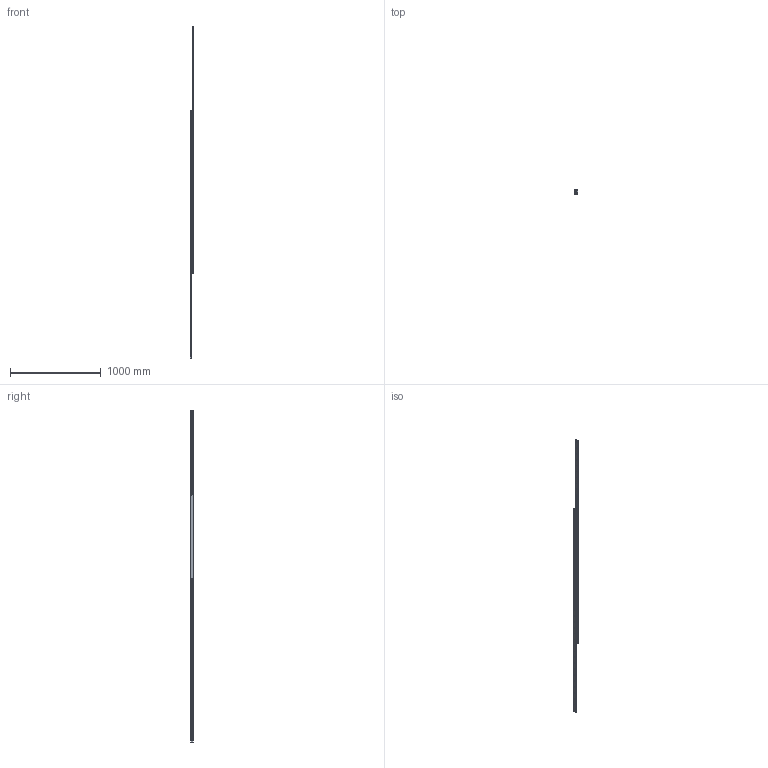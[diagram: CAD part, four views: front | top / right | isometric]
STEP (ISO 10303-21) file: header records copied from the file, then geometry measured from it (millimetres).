
FILE_DESCRIPTION( ( 'STEP AP214' ), '1' );
FILE_NAME( 'p:/temp/worker_84/temp/exporttempdir_3784_595_bLnke/format_1/DEF43-18101856.stp', '2020-03-20T20:04:55', ( 'License CC BY-ND 4.0' ), ( 'CADENAS' ), ' ', 'PARTsolutions', ' ' );
FILE_SCHEMA( ( 'AUTOMOTIVE_DESIGN { 1 0 10303 214 1 1 1 1 }' ) );
Length unit declared in the file: millimetre
Products named in the file (4): DEF43-18101856; _43211810185612-gf; _4321181018561-ei; _43211810185611-gf
Assembly tree (4 placements, depth 2):
  DEF43-18101856
    _43211810185612-gf
    _4321181018561-ei  x2
    _43211810185611-gf
Bounding box: 44 x 43 x 3666 mm (x, y, z)
Volume: 2237091.6 mm3; surface area: 851618.7 mm2
Topology: 4 solids, 4 shells, 290 faces, 714 edges, 444 vertices
Faces by surface type: plane 102, cone 96, cylinder 92
Full cylindrical faces by diameter (mm): 4.134 x2, 6.647 x46, 7 x2
Entity records: 8552 total; most frequent: DIRECTION 1192, CARTESIAN_POINT 1055, ORIENTED_EDGE 894, AXIS2_PLACEMENT_3D 498, EDGE_LOOP 484, EDGE_CURVE 447, VERTEX_POINT 361, FACE_OUTER_BOUND 290
